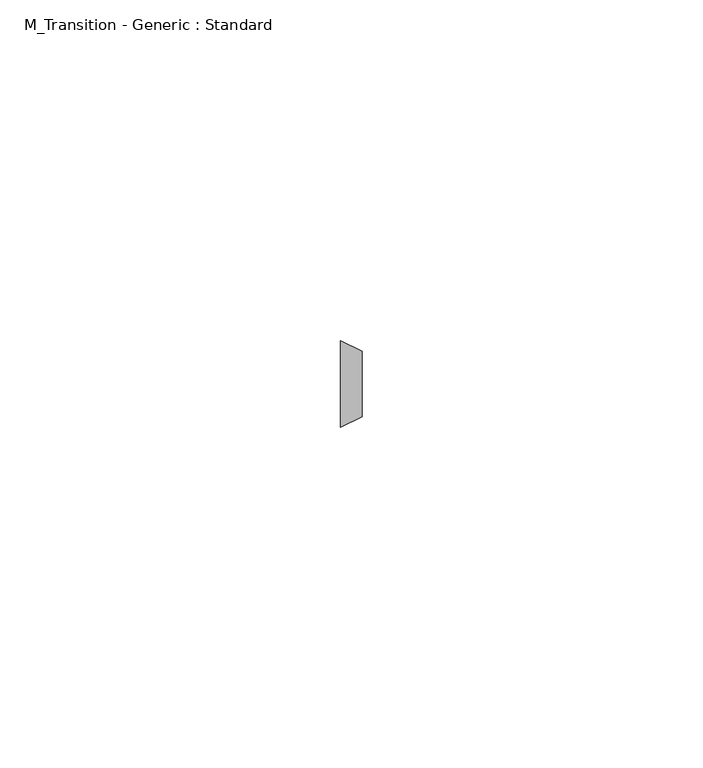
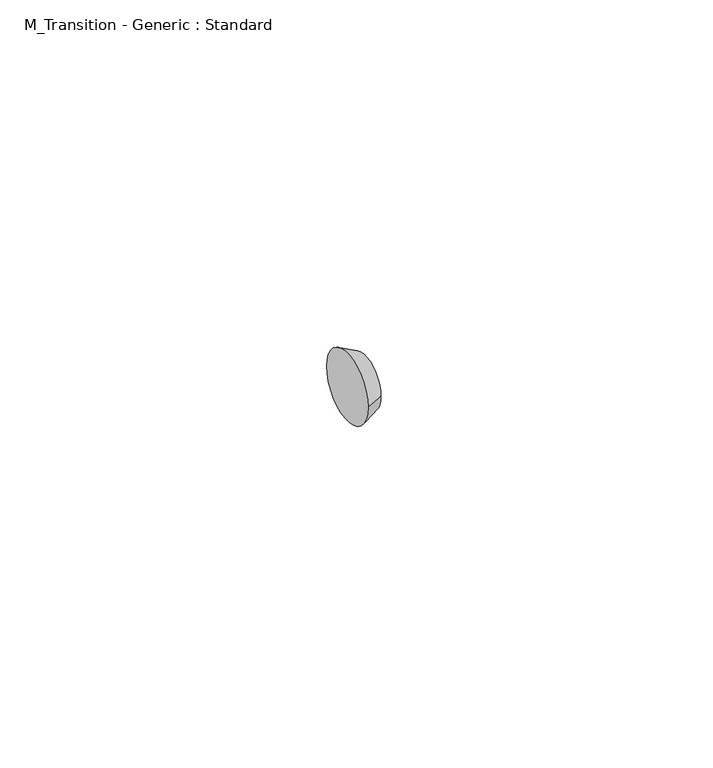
"""IFC4 building model written with IfcOpenShell, lengths in millimetres: pipe fitting geometry, M_Transition - Generic : Standard."""

from ifc_helpers import new_model, si_unit, frame, origin, place, context, project, spatial, polyline, circle_curve, source, transform, mapped, element, save
from ifc_brep_helpers import plane_surface, revolved_surface, advanced_brep


def m_transition_generic_standard_b63c8674(model_context):
    return source(origin(), model_context, "Body", "AdvancedBrep", [
        advanced_brep(
        [(3.16875, -4.7875, 0.0), (3.16875, 4.7875, 0.0), (0.0, -6.3375, 0.0), (0.0, 6.3375, 0.0)],
        [
            (0, 1, circle_curve(frame((3.16875, 0.0, 0.0), z_axis=(1.0, -1.3669328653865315e-12, 1.7597959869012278e-12), x_axis=(-1.3669312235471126e-12, -1.0, 0.0)), 4.7875)),
            (1, 0, circle_curve(frame((3.16875, 0.0, 0.0), z_axis=(1.0, -1.3669328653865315e-12, 1.7597959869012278e-12), x_axis=(1.3669312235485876e-12, 1.0, 0.0)), 4.7875)),
            (2, 3, circle_curve(frame((0.0, 0.0, 0.0), z_axis=(-1.0, 1.3669328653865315e-12, -1.7597959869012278e-12), x_axis=(1.3669312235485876e-12, 1.0, 0.0)), 6.3375)),
            (3, 2, circle_curve(frame((0.0, 0.0, 0.0), z_axis=(-1.0, 1.3669328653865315e-12, -1.7597959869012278e-12), x_axis=(-1.3669312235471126e-12, -1.0, 0.0)), 6.3375)),
            (3, 1),
            (0, 2),
        ],
        [
            plane_surface(frame((3.16875, 0.0, 0.0), z_axis=(1.0, 0.0, 0.0), x_axis=(0.0, 0.0, -1.0))),
            plane_surface(frame((0.0, 0.0, 0.0), z_axis=(-1.0, 0.0, 0.0), x_axis=(0.0, 0.0, -1.0))),
            revolved_surface(polyline([(3.1687499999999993, -4.787500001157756, 0.0), (-1.7326584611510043e-11, -6.337500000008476, 0.0)]), (12.9560988, 0.0, 0.0), (-1.0, 1.3669328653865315e-12, -1.7597959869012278e-12)),
            revolved_surface(polyline([(3.1687500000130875, 4.787500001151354, 0.0), (0.0, 6.3375, 0.0)]), (12.9560988, 0.0, 0.0), (-1.0, 1.3669328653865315e-12, -1.7597959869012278e-12)),
        ],
        [
            (0, [[1, 2]]),
            (1, [[3, 4]]),
            (2, [[-4, 5, -1, 6]]),
            (3, [[-3, -6, -2, -5]]),
        ],
    ),
    ])


if __name__ == "__main__":
    model = new_model("IFC4")
    model_context = context("Model", 3, world=origin())
    ifc_project = project(units=[si_unit("LENGTHUNIT", "METRE", prefix="MILLI")], contexts=[model_context])
    site = spatial("IfcSite", under=ifc_project)
    building = spatial("IfcBuilding", under=site)
    placement = place(None, origin())
    m_transition_generic_standard_shape = m_transition_generic_standard_b63c8674(model_context)
    element("IfcPipeFitting", 1, ObjectType="M_Transition - Generic : Standard", at=placement, inside=building, context=model_context, shape_type="MappedRepresentation", body=[
        mapped(m_transition_generic_standard_shape, transform((0.0, 0.0, 0.0), x_axis=(1.0, 0.0, 0.0), y_axis=(0.0, 1.0, 0.0), z_axis=(0.0, 0.0, 1.0))),
    ])
    save(model, "model.ifc")
